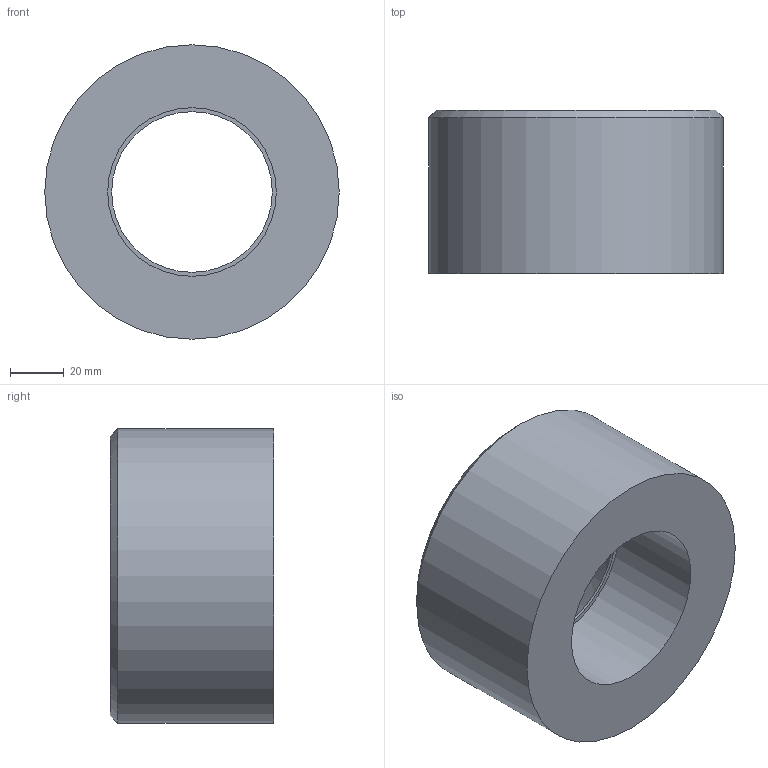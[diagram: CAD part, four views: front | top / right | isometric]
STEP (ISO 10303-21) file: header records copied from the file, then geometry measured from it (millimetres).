
FILE_DESCRIPTION(/* description */ ('PVC riduzione corta incollaggio metrica'),/* implementation_level */ '2;1');
FILE_NAME(/* name */ 'C:\Users\POLYPIPE\Desktop\DATASET INVENTOR\LIBRERIA EFFAST\RACCORDI 3DxWEB\RDR\3D_RDRRCD\3D_RDRRCD110G.stp',/* time_stamp */ '2018-01-19T15:32:55+01:00',/* author */ ('POLYPIPE'),/* organization */ ('Polypipe Italia s.r.l.'),/* preprocessor_version */ 'ST-DEVELOPER v16.1',/* originating_system */ 'Autodesk Inventor 2016',/* authorisation */ '');
FILE_SCHEMA (('CONFIG_CONTROL_DESIGN'));
Length unit declared in the file: millimetre
Products named in the file (1): 3D_RDRRCD
Bounding box: 110 x 61 x 110 mm (x, y, z)
Volume: 363413.3 mm3; surface area: 44435.7 mm2
Topology: 1 solids, 1 shells, 8 faces, 13 edges, 8 vertices
Faces by surface type: plane 3, cylinder 3, cone 2
Full cylindrical faces by diameter (mm): 60 x1, 63 x1, 110 x1
Entity records: 192 total; most frequent: DIRECTION 34, CARTESIAN_POINT 25, AXIS2_PLACEMENT_3D 17, EDGE_LOOP 16, ORIENTED_EDGE 16, FACE_BOUND 8, FACE_OUTER_BOUND 8, CIRCLE 8
